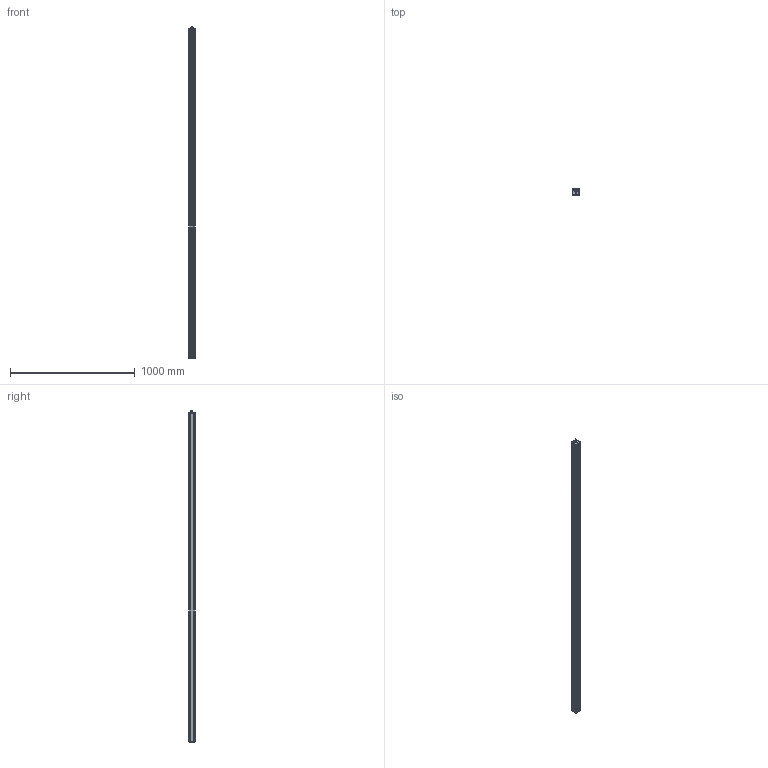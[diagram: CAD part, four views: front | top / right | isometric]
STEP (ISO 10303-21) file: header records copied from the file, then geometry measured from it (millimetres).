
FILE_DESCRIPTION (( 'STEP AP214' ), '1' );
FILE_NAME ('EFFI-FLEX2-LG-2600-ZZZ-WW-PP.STEP', '2021-05-28T09:33:15', ( '' ), ( '' ), 'SwSTEP 2.0', 'SolidWorks 2021', '' );
FILE_SCHEMA (( 'AUTOMOTIVE_DESIGN' ));
Length unit declared in the file: millimetre
Products named in the file (6): EFFI-FLEX2-LG-2600-ZZZ-WW-PP; 018302; 000104; 018305; 017872; 018003
Assembly tree (10 placements, depth 2):
  EFFI-FLEX2-LG-2600-ZZZ-WW-PP
    017872
    018302
    018305
    018003  x6
    000104
Bounding box: 51.01 x 49.11 x 2658 mm (x, y, z)
Volume: 5469476.3 mm3; surface area: 1021279.8 mm2
Topology: 10 solids, 10 shells, 1555 faces, 3970 edges, 2522 vertices
Faces by surface type: plane 798, cylinder 442, bspline 117, cone 96, torus 66, sphere 36
Entity records: 55996 total; most frequent: CARTESIAN_POINT 15057, ORIENTED_EDGE 6804, DIRECTION 6309, EDGE_CURVE 3402, LINE 2257, VECTOR 2257, VERTEX_POINT 2232, AXIS2_PLACEMENT_3D 2026
